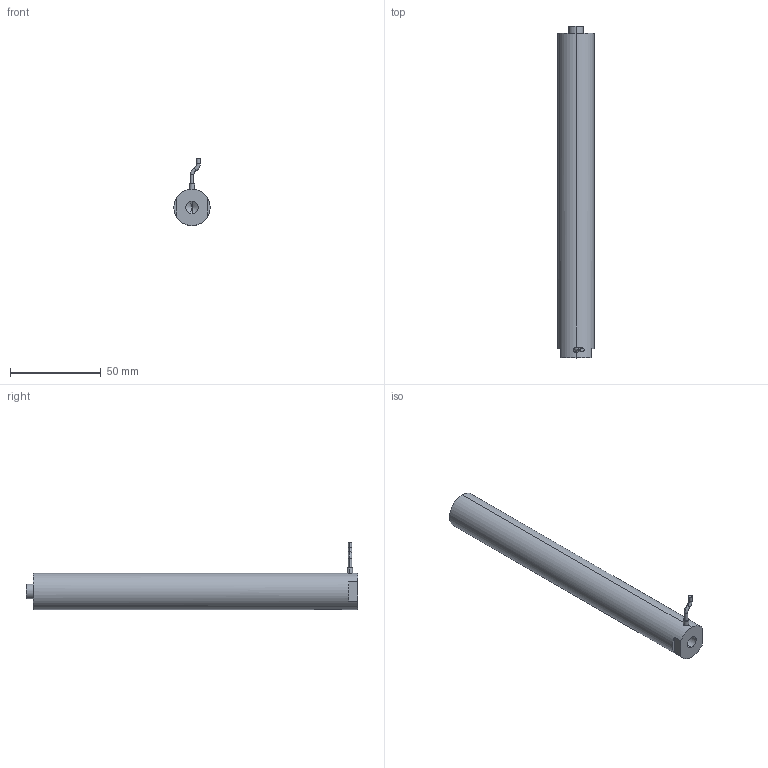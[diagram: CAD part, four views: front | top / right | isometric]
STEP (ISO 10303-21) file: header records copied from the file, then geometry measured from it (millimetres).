
FILE_DESCRIPTION (( 'STEP AP203' ), '1' );
FILE_NAME ('ﾆｽﾍｷﾊｽ180VS20.STEP', '2021-07-08T05:40:45', ( 'ﾎ｢ﾈ橆ﾃｻｧ' ), ( 'ﾎ｢ﾈ晥ｫﾋｾ' ), 'SwSTEP 2.0', 'SolidWorks 2016', '' );
FILE_SCHEMA (( 'CONFIG_CONTROL_DESIGN' ));
Length unit declared in the file: millimetre
Products named in the file (1): ƽͷʽ180VS20
Bounding box: 20 x 183 x 37.06 mm (x, y, z)
Volume: 55982.7 mm3; surface area: 12335.1 mm2
Topology: 1 solids, 1 shells, 942 faces, 2548 edges, 1693 vertices
Faces by surface type: bspline 525, plane 305, cylinder 106, torus 4, cone 2
Entity records: 45562 total; most frequent: CARTESIAN_POINT 26540, ORIENTED_EDGE 5084, EDGE_CURVE 2542, DIRECTION 1910, B_SPLINE_CURVE_WITH_KNOTS 1734, VERTEX_POINT 1691, EDGE_LOOP 1031, ADVANCED_FACE 942
